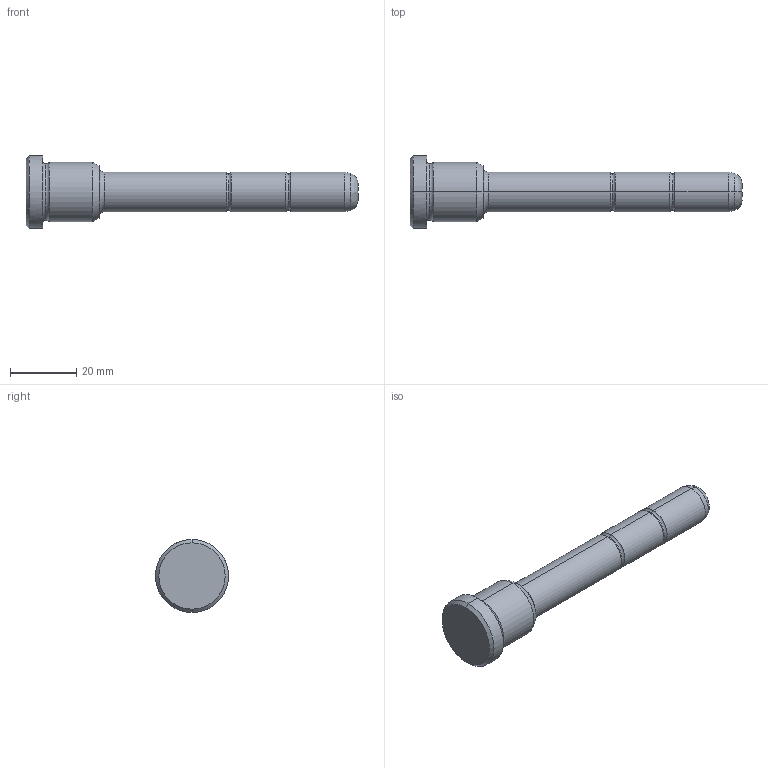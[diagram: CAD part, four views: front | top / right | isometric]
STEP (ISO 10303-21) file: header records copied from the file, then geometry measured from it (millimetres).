
FILE_DESCRIPTION(('CATIA V5 STEP Exchange'),'2;1');
FILE_NAME('C:\Users\Utente\Desktop\IO LAVORO\3D X SITO CF\X SITO\PLASTICA\351\351-12X22X100.stp','2021-08-17T11:45:48+00:00',('none'),('none'),'CATIA Version 5 Release 20 GA (IN-10)','CATIA V5 STEP AP203','none');
FILE_SCHEMA(('CONFIG_CONTROL_DESIGN'));
Length unit declared in the file: millimetre
Products named in the file (1): 351-12X22X100
Bounding box: 100 x 22 x 22 mm (x, y, z)
Volume: 14786.4 mm3; surface area: 4860.2 mm2
Topology: 1 solids, 1 shells, 36 faces, 102 edges, 70 vertices
Faces by surface type: torus 14, cylinder 10, cone 6, plane 4, bspline 2
Entity records: 1308 total; most frequent: CARTESIAN_POINT 375, ORIENTED_EDGE 204, DIRECTION 152, AXIS2_PLACEMENT_3D 103, EDGE_CURVE 102, VERTEX_POINT 70, CIRCLE 68, EDGE_LOOP 38
